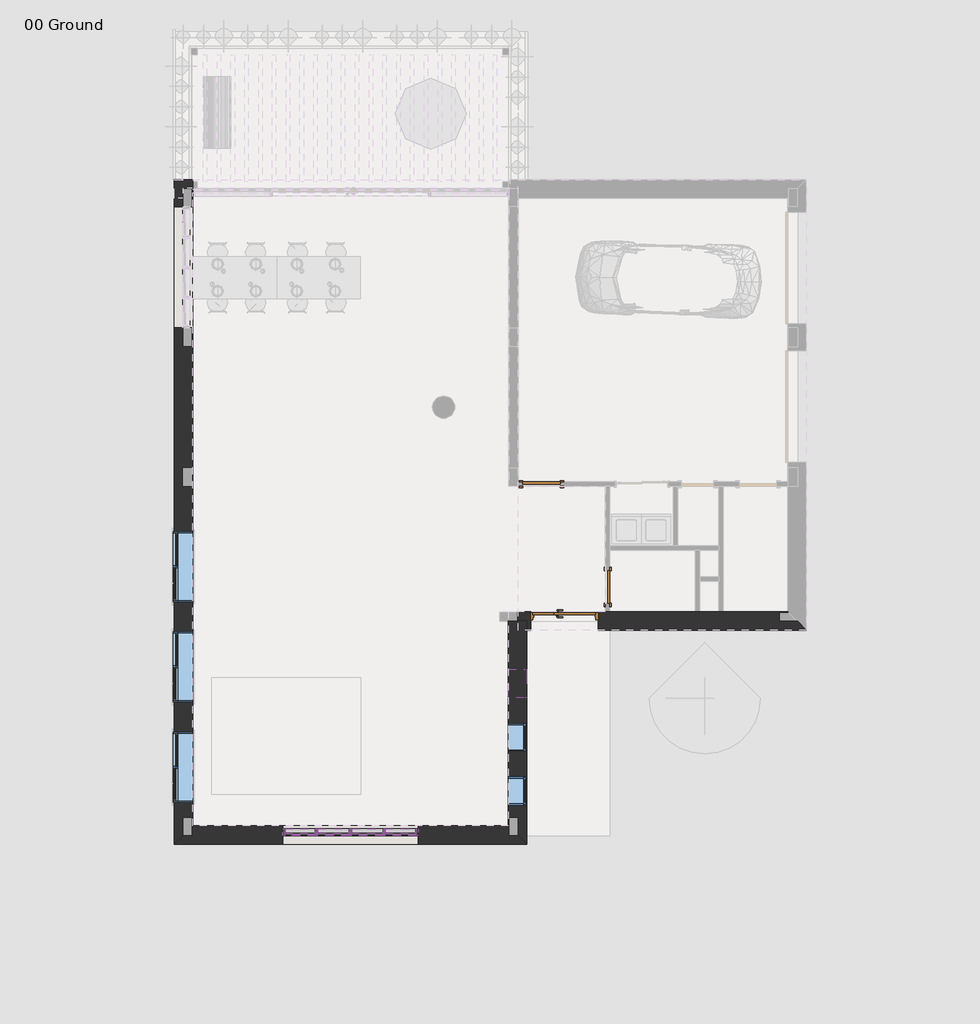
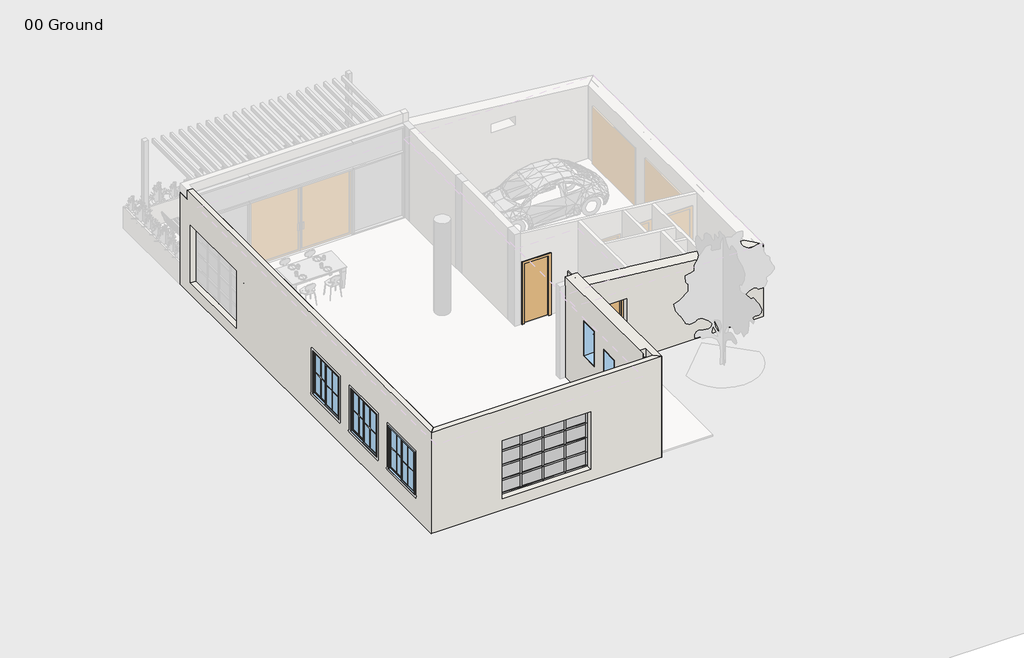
# One storey, part 1 of 4: 40 members, 16 plates, 6 windows, 4 walls, 3 doors.
"""IFC4 building model written with IfcOpenShell, lengths in millimetres."""

from ifc_helpers import new_model, si_unit, origin, place, context, project, spatial, faceted_brep, transform, mapped, element, save
from components import m_door_passage_uneven_flush_1350_x_2100mm_8cd78c95, m_single_flush_0700_x_2100mm_23326b45, m_single_flush_0800_x_2100mm_e1c1bfab, rectangular_mullion_50_x_150mm_fef40266, rectangular_mullion_50_x_150mm_4130c5bf, rectangular_mullion_50_x_150mm_a9044063, rectangular_mullion_50_x_150mm_1348d4e1, rectangular_mullion_50_x_150mm_0a8c3443, rectangular_mullion_50_x_150mm_b3666dbd, rectangular_mullion_50_x_150mm_567eccab, rectangular_mullion_50_x_150mm_22f77a7a, system_panel_glazed_d9146cf5, system_panel_glazed_aea024ea, system_panel_glazed_61722dae, system_panel_glazed_96a5b588, m_fixed_0610_x_1220mm_41f4d490, m_window_sliding_double_1500_x_1500mm_8cf3a065

model = new_model("IFC4")

# Units and contexts
model_context = context("Model", 3, world=origin())
ifc_project = project(units=[si_unit("LENGTHUNIT", "METRE", prefix="MILLI")], contexts=[model_context])

# Site, building, storey
site = spatial("IfcSite", under=ifc_project)
building = spatial("IfcBuilding", under=site)
storey = spatial("IfcBuildingStorey", under=building, Name="00 Ground", Elevation=0.0)

# Doors
placement = place(None, origin())
m_door_passage_uneven_flush_1350_x_2100mm_shape = m_door_passage_uneven_flush_1350_x_2100mm_8cd78c95(model_context)
element("IfcDoor", 1, ObjectType="M_Door-Passage-Uneven-Flush : 1350 x 2100mm", at=placement, inside=storey, context=model_context, shape_type="MappedRepresentation", body=[
    mapped(m_door_passage_uneven_flush_1350_x_2100mm_shape, transform((-132.5407999, -2955.0601648, 0.0), x_axis=(-1.0, 0.0, 0.0), y_axis=(0.0, -1.0, 0.0), z_axis=(0.0, 0.0, 1.0))),
])
m_single_flush_0700_x_2100mm_shape = m_single_flush_0700_x_2100mm_23326b45(model_context)
element("IfcDoor", 2, ObjectType="M_Single-Flush : 0700 x 2100mm", at=placement, inside=storey, context=model_context, shape_type="MappedRepresentation", body=[
    mapped(m_single_flush_0700_x_2100mm_shape, transform((796.9592001, -2219.7101648, 0.0), x_axis=(0.0, -1.0, 0.0), y_axis=(1.0, 0.0, 0.0), z_axis=(0.0, 0.0, 1.0))),
])
m_single_flush_0800_x_2100mm_shape = m_single_flush_0800_x_2100mm_e1c1bfab(model_context)
element("IfcDoor", 3, ObjectType="M_Single-Flush : 0800 x 2100mm", at=placement, inside=storey, context=model_context, shape_type="MappedRepresentation", body=[
    mapped(m_single_flush_0800_x_2100mm_shape, transform((-622.5407999, -12.7101648, 0.0), x_axis=(-1.0, 0.0, 0.0), y_axis=(0.0, -1.0, 0.0), z_axis=(0.0, 0.0, 1.0))),
])

# Members
rectangular_mullion_50_x_150mm_shape = rectangular_mullion_50_x_150mm_fef40266(model_context)
element("IfcMember", 4, ObjectType="Rectangular Mullion : 50 x 150mm", at=placement, inside=storey, context=model_context, shape_type="MappedRepresentation", body=[
    mapped(rectangular_mullion_50_x_150mm_shape, transform((-3272.5407999, -7487.7101648, 2400.0), x_axis=(0.0, 0.0, 1.0), y_axis=(0.0, -1.0, 0.0), z_axis=(1.0, 0.0, 0.0))),
])
element("IfcMember", 5, ObjectType="Rectangular Mullion : 50 x 150mm", at=placement, inside=storey, context=model_context, shape_type="MappedRepresentation", body=[
    mapped(rectangular_mullion_50_x_150mm_shape, transform((-5447.5407998, -7487.7101648, 2400.0), x_axis=(0.0, 0.0, 1.0), y_axis=(0.0, -1.0, 0.0), z_axis=(1.0, 0.0, 0.0))),
])
rectangular_mullion_50_x_150mm_2_shape = rectangular_mullion_50_x_150mm_4130c5bf(model_context)
element("IfcMember", 6, ObjectType="Rectangular Mullion : 50 x 150mm", at=placement, inside=storey, context=model_context, shape_type="MappedRepresentation", body=[
    mapped(rectangular_mullion_50_x_150mm_2_shape, transform((-4722.5407999, -7487.7101648, 2400.0), x_axis=(0.0, 0.0, 1.0), y_axis=(0.0, -1.0, 0.0), z_axis=(1.0, 0.0, 0.0))),
])
element("IfcMember", 7, ObjectType="Rectangular Mullion : 50 x 150mm", at=placement, inside=storey, context=model_context, shape_type="MappedRepresentation", body=[
    mapped(rectangular_mullion_50_x_150mm_2_shape, transform((-3997.5408001, -7487.7101648, 2400.0), x_axis=(0.0, 0.0, 1.0), y_axis=(0.0, -1.0, 0.0), z_axis=(1.0, 0.0, 0.0))),
])
element("IfcMember", 8, ObjectType="Rectangular Mullion : 50 x 150mm", at=placement, inside=storey, context=model_context, shape_type="MappedRepresentation", body=[
    mapped(rectangular_mullion_50_x_150mm_shape, transform((-6172.5407999, -7487.7101648, 400.0), x_axis=(0.0, 0.0, -1.0), y_axis=(0.0, -1.0, 0.0), z_axis=(-1.0, 0.0, 0.0))),
])
element("IfcMember", 9, ObjectType="Rectangular Mullion : 50 x 150mm", at=placement, inside=storey, context=model_context, shape_type="MappedRepresentation", body=[
    mapped(rectangular_mullion_50_x_150mm_2_shape, transform((-5447.5407998, -7487.7101648, 400.0), x_axis=(0.0, 0.0, -1.0), y_axis=(0.0, -1.0, 0.0), z_axis=(-1.0, 0.0, 0.0))),
])
element("IfcMember", 10, ObjectType="Rectangular Mullion : 50 x 150mm", at=placement, inside=storey, context=model_context, shape_type="MappedRepresentation", body=[
    mapped(rectangular_mullion_50_x_150mm_2_shape, transform((-4722.5407999, -7487.7101648, 400.0), x_axis=(0.0, 0.0, -1.0), y_axis=(0.0, -1.0, 0.0), z_axis=(-1.0, 0.0, 0.0))),
])
element("IfcMember", 11, ObjectType="Rectangular Mullion : 50 x 150mm", at=placement, inside=storey, context=model_context, shape_type="MappedRepresentation", body=[
    mapped(rectangular_mullion_50_x_150mm_shape, transform((-3997.5408001, -7487.7101648, 400.0), x_axis=(0.0, 0.0, -1.0), y_axis=(0.0, -1.0, 0.0), z_axis=(-1.0, 0.0, 0.0))),
])
rectangular_mullion_50_x_150mm_3_shape = rectangular_mullion_50_x_150mm_a9044063(model_context)
element("IfcMember", 12, ObjectType="Rectangular Mullion : 50 x 150mm", at=placement, inside=storey, context=model_context, shape_type="MappedRepresentation", body=[
    mapped(rectangular_mullion_50_x_150mm_3_shape, transform((-3322.5407999, -7487.7101648, 900.0), x_axis=(0.0, 0.0, 1.0), y_axis=(0.0, -1.0, 0.0), z_axis=(1.0, 0.0, 0.0))),
])
element("IfcMember", 13, ObjectType="Rectangular Mullion : 50 x 150mm", at=placement, inside=storey, context=model_context, shape_type="MappedRepresentation", body=[
    mapped(rectangular_mullion_50_x_150mm_3_shape, transform((-3322.5407999, -7487.7101648, 1400.0), x_axis=(0.0, 0.0, 1.0), y_axis=(0.0, -1.0, 0.0), z_axis=(1.0, 0.0, 0.0))),
])
element("IfcMember", 14, ObjectType="Rectangular Mullion : 50 x 150mm", at=placement, inside=storey, context=model_context, shape_type="MappedRepresentation", body=[
    mapped(rectangular_mullion_50_x_150mm_3_shape, transform((-3322.5407999, -7487.7101648, 1900.0), x_axis=(0.0, 0.0, 1.0), y_axis=(0.0, -1.0, 0.0), z_axis=(1.0, 0.0, 0.0))),
])
element("IfcMember", 15, ObjectType="Rectangular Mullion : 50 x 150mm", at=placement, inside=storey, context=model_context, shape_type="MappedRepresentation", body=[
    mapped(rectangular_mullion_50_x_150mm_3_shape, transform((-5472.5407998, -7487.7101648, 900.0), x_axis=(0.0, 0.0, 1.0), y_axis=(0.0, -1.0, 0.0), z_axis=(1.0, 0.0, 0.0))),
])
element("IfcMember", 16, ObjectType="Rectangular Mullion : 50 x 150mm", at=placement, inside=storey, context=model_context, shape_type="MappedRepresentation", body=[
    mapped(rectangular_mullion_50_x_150mm_3_shape, transform((-5472.5407998, -7487.7101648, 1400.0), x_axis=(0.0, 0.0, 1.0), y_axis=(0.0, -1.0, 0.0), z_axis=(1.0, 0.0, 0.0))),
])
element("IfcMember", 17, ObjectType="Rectangular Mullion : 50 x 150mm", at=placement, inside=storey, context=model_context, shape_type="MappedRepresentation", body=[
    mapped(rectangular_mullion_50_x_150mm_3_shape, transform((-5472.5407998, -7487.7101648, 1900.0), x_axis=(0.0, 0.0, 1.0), y_axis=(0.0, -1.0, 0.0), z_axis=(1.0, 0.0, 0.0))),
])
rectangular_mullion_50_x_150mm_4_shape = rectangular_mullion_50_x_150mm_1348d4e1(model_context)
element("IfcMember", 18, ObjectType="Rectangular Mullion : 50 x 150mm", at=placement, inside=storey, context=model_context, shape_type="MappedRepresentation", body=[
    mapped(rectangular_mullion_50_x_150mm_4_shape, transform((-4747.5407999, -7487.7101648, 900.0), x_axis=(0.0, 0.0, 1.0), y_axis=(0.0, -1.0, 0.0), z_axis=(1.0, 0.0, 0.0))),
])
element("IfcMember", 19, ObjectType="Rectangular Mullion : 50 x 150mm", at=placement, inside=storey, context=model_context, shape_type="MappedRepresentation", body=[
    mapped(rectangular_mullion_50_x_150mm_4_shape, transform((-4022.5408001, -7487.7101648, 900.0), x_axis=(0.0, 0.0, 1.0), y_axis=(0.0, -1.0, 0.0), z_axis=(1.0, 0.0, 0.0))),
])
element("IfcMember", 20, ObjectType="Rectangular Mullion : 50 x 150mm", at=placement, inside=storey, context=model_context, shape_type="MappedRepresentation", body=[
    mapped(rectangular_mullion_50_x_150mm_4_shape, transform((-4747.5407999, -7487.7101648, 1400.0), x_axis=(0.0, 0.0, 1.0), y_axis=(0.0, -1.0, 0.0), z_axis=(1.0, 0.0, 0.0))),
])
element("IfcMember", 21, ObjectType="Rectangular Mullion : 50 x 150mm", at=placement, inside=storey, context=model_context, shape_type="MappedRepresentation", body=[
    mapped(rectangular_mullion_50_x_150mm_4_shape, transform((-4022.5408001, -7487.7101648, 1400.0), x_axis=(0.0, 0.0, 1.0), y_axis=(0.0, -1.0, 0.0), z_axis=(1.0, 0.0, 0.0))),
])
element("IfcMember", 22, ObjectType="Rectangular Mullion : 50 x 150mm", at=placement, inside=storey, context=model_context, shape_type="MappedRepresentation", body=[
    mapped(rectangular_mullion_50_x_150mm_4_shape, transform((-4747.5407999, -7487.7101648, 1900.0), x_axis=(0.0, 0.0, 1.0), y_axis=(0.0, -1.0, 0.0), z_axis=(1.0, 0.0, 0.0))),
])
element("IfcMember", 23, ObjectType="Rectangular Mullion : 50 x 150mm", at=placement, inside=storey, context=model_context, shape_type="MappedRepresentation", body=[
    mapped(rectangular_mullion_50_x_150mm_4_shape, transform((-4022.5408001, -7487.7101648, 1900.0), x_axis=(0.0, 0.0, 1.0), y_axis=(0.0, -1.0, 0.0), z_axis=(1.0, 0.0, 0.0))),
])
rectangular_mullion_50_x_150mm_5_shape = rectangular_mullion_50_x_150mm_0a8c3443(model_context)
element("IfcMember", 24, ObjectType="Rectangular Mullion : 50 x 150mm", at=placement, inside=storey, context=model_context, shape_type="MappedRepresentation", body=[
    mapped(rectangular_mullion_50_x_150mm_5_shape, transform((-3272.5407999, -7487.7101648, 450.0), x_axis=(1.0, 0.0, 0.0), y_axis=(0.0, -1.0, 0.0), z_axis=(0.0, 0.0, -1.0))),
])
rectangular_mullion_50_x_150mm_6_shape = rectangular_mullion_50_x_150mm_b3666dbd(model_context)
element("IfcMember", 25, ObjectType="Rectangular Mullion : 50 x 150mm", at=placement, inside=storey, context=model_context, shape_type="MappedRepresentation", body=[
    mapped(rectangular_mullion_50_x_150mm_6_shape, transform((-3272.5407999, -7487.7101648, 900.0), x_axis=(1.0, 0.0, 0.0), y_axis=(0.0, -1.0, 0.0), z_axis=(0.0, 0.0, -1.0))),
])
element("IfcMember", 26, ObjectType="Rectangular Mullion : 50 x 150mm", at=placement, inside=storey, context=model_context, shape_type="MappedRepresentation", body=[
    mapped(rectangular_mullion_50_x_150mm_6_shape, transform((-3272.5407999, -7487.7101648, 1400.0), x_axis=(1.0, 0.0, 0.0), y_axis=(0.0, -1.0, 0.0), z_axis=(0.0, 0.0, -1.0))),
])
element("IfcMember", 27, ObjectType="Rectangular Mullion : 50 x 150mm", at=placement, inside=storey, context=model_context, shape_type="MappedRepresentation", body=[
    mapped(rectangular_mullion_50_x_150mm_5_shape, transform((-3272.5407999, -7487.7101648, 1900.0), x_axis=(1.0, 0.0, 0.0), y_axis=(0.0, -1.0, 0.0), z_axis=(0.0, 0.0, -1.0))),
])
element("IfcMember", 28, ObjectType="Rectangular Mullion : 50 x 150mm", at=placement, inside=storey, context=model_context, shape_type="MappedRepresentation", body=[
    mapped(rectangular_mullion_50_x_150mm_5_shape, transform((-6172.5407999, -7487.7101648, 2350.0), x_axis=(-1.0, 0.0, 0.0), y_axis=(0.0, -1.0, 0.0), z_axis=(0.0, 0.0, 1.0))),
])
element("IfcMember", 29, ObjectType="Rectangular Mullion : 50 x 150mm", at=placement, inside=storey, context=model_context, shape_type="MappedRepresentation", body=[
    mapped(rectangular_mullion_50_x_150mm_5_shape, transform((-6172.5407999, -7487.7101648, 900.0), x_axis=(-1.0, 0.0, 0.0), y_axis=(0.0, -1.0, 0.0), z_axis=(0.0, 0.0, 1.0))),
])
element("IfcMember", 30, ObjectType="Rectangular Mullion : 50 x 150mm", at=placement, inside=storey, context=model_context, shape_type="MappedRepresentation", body=[
    mapped(rectangular_mullion_50_x_150mm_6_shape, transform((-6172.5407999, -7487.7101648, 1400.0), x_axis=(-1.0, 0.0, 0.0), y_axis=(0.0, -1.0, 0.0), z_axis=(0.0, 0.0, 1.0))),
])
element("IfcMember", 31, ObjectType="Rectangular Mullion : 50 x 150mm", at=placement, inside=storey, context=model_context, shape_type="MappedRepresentation", body=[
    mapped(rectangular_mullion_50_x_150mm_6_shape, transform((-6172.5407999, -7487.7101648, 1900.0), x_axis=(-1.0, 0.0, 0.0), y_axis=(0.0, -1.0, 0.0), z_axis=(0.0, 0.0, 1.0))),
])
rectangular_mullion_50_x_150mm_7_shape = rectangular_mullion_50_x_150mm_567eccab(model_context)
element("IfcMember", 32, ObjectType="Rectangular Mullion : 50 x 150mm", at=placement, inside=storey, context=model_context, shape_type="MappedRepresentation", body=[
    mapped(rectangular_mullion_50_x_150mm_7_shape, transform((-5447.5407998, -7487.7101648, 450.0), x_axis=(1.0, 0.0, 0.0), y_axis=(0.0, -1.0, 0.0), z_axis=(0.0, 0.0, -1.0))),
])
element("IfcMember", 33, ObjectType="Rectangular Mullion : 50 x 150mm", at=placement, inside=storey, context=model_context, shape_type="MappedRepresentation", body=[
    mapped(rectangular_mullion_50_x_150mm_7_shape, transform((-4722.5407999, -7487.7101648, 450.0), x_axis=(1.0, 0.0, 0.0), y_axis=(0.0, -1.0, 0.0), z_axis=(0.0, 0.0, -1.0))),
])
element("IfcMember", 34, ObjectType="Rectangular Mullion : 50 x 150mm", at=placement, inside=storey, context=model_context, shape_type="MappedRepresentation", body=[
    mapped(rectangular_mullion_50_x_150mm_7_shape, transform((-3997.5408001, -7487.7101648, 450.0), x_axis=(1.0, 0.0, 0.0), y_axis=(0.0, -1.0, 0.0), z_axis=(0.0, 0.0, -1.0))),
])
rectangular_mullion_50_x_150mm_8_shape = rectangular_mullion_50_x_150mm_22f77a7a(model_context)
element("IfcMember", 35, ObjectType="Rectangular Mullion : 50 x 150mm", at=placement, inside=storey, context=model_context, shape_type="MappedRepresentation", body=[
    mapped(rectangular_mullion_50_x_150mm_8_shape, transform((-5447.5407998, -7487.7101648, 900.0), x_axis=(1.0, 0.0, 0.0), y_axis=(0.0, -1.0, 0.0), z_axis=(0.0, 0.0, -1.0))),
])
element("IfcMember", 36, ObjectType="Rectangular Mullion : 50 x 150mm", at=placement, inside=storey, context=model_context, shape_type="MappedRepresentation", body=[
    mapped(rectangular_mullion_50_x_150mm_8_shape, transform((-4722.5407999, -7487.7101648, 900.0), x_axis=(1.0, 0.0, 0.0), y_axis=(0.0, -1.0, 0.0), z_axis=(0.0, 0.0, -1.0))),
])
element("IfcMember", 37, ObjectType="Rectangular Mullion : 50 x 150mm", at=placement, inside=storey, context=model_context, shape_type="MappedRepresentation", body=[
    mapped(rectangular_mullion_50_x_150mm_8_shape, transform((-3997.5408001, -7487.7101648, 900.0), x_axis=(1.0, 0.0, 0.0), y_axis=(0.0, -1.0, 0.0), z_axis=(0.0, 0.0, -1.0))),
])
element("IfcMember", 38, ObjectType="Rectangular Mullion : 50 x 150mm", at=placement, inside=storey, context=model_context, shape_type="MappedRepresentation", body=[
    mapped(rectangular_mullion_50_x_150mm_8_shape, transform((-5447.5407998, -7487.7101648, 1400.0), x_axis=(1.0, 0.0, 0.0), y_axis=(0.0, -1.0, 0.0), z_axis=(0.0, 0.0, -1.0))),
])
element("IfcMember", 39, ObjectType="Rectangular Mullion : 50 x 150mm", at=placement, inside=storey, context=model_context, shape_type="MappedRepresentation", body=[
    mapped(rectangular_mullion_50_x_150mm_8_shape, transform((-4722.5407999, -7487.7101648, 1400.0), x_axis=(1.0, 0.0, 0.0), y_axis=(0.0, -1.0, 0.0), z_axis=(0.0, 0.0, -1.0))),
])
element("IfcMember", 40, ObjectType="Rectangular Mullion : 50 x 150mm", at=placement, inside=storey, context=model_context, shape_type="MappedRepresentation", body=[
    mapped(rectangular_mullion_50_x_150mm_8_shape, transform((-3997.5408001, -7487.7101648, 1400.0), x_axis=(1.0, 0.0, 0.0), y_axis=(0.0, -1.0, 0.0), z_axis=(0.0, 0.0, -1.0))),
])
element("IfcMember", 41, ObjectType="Rectangular Mullion : 50 x 150mm", at=placement, inside=storey, context=model_context, shape_type="MappedRepresentation", body=[
    mapped(rectangular_mullion_50_x_150mm_7_shape, transform((-5447.5407998, -7487.7101648, 1900.0), x_axis=(1.0, 0.0, 0.0), y_axis=(0.0, -1.0, 0.0), z_axis=(0.0, 0.0, -1.0))),
])
element("IfcMember", 42, ObjectType="Rectangular Mullion : 50 x 150mm", at=placement, inside=storey, context=model_context, shape_type="MappedRepresentation", body=[
    mapped(rectangular_mullion_50_x_150mm_7_shape, transform((-4722.5407999, -7487.7101648, 1900.0), x_axis=(1.0, 0.0, 0.0), y_axis=(0.0, -1.0, 0.0), z_axis=(0.0, 0.0, -1.0))),
])
element("IfcMember", 43, ObjectType="Rectangular Mullion : 50 x 150mm", at=placement, inside=storey, context=model_context, shape_type="MappedRepresentation", body=[
    mapped(rectangular_mullion_50_x_150mm_7_shape, transform((-3997.5408001, -7487.7101648, 1900.0), x_axis=(1.0, 0.0, 0.0), y_axis=(0.0, -1.0, 0.0), z_axis=(0.0, 0.0, -1.0))),
])

# Plates
system_panel_glazed_shape = system_panel_glazed_d9146cf5(model_context)
element("IfcPlate", 44, ObjectType="System Panel : Glazed", at=placement, inside=storey, context=model_context, shape_type="MappedRepresentation", body=[
    mapped(system_panel_glazed_shape, transform((-5797.5407999, -7487.7101648, 450.0), x_axis=(1.0, 0.0, 0.0), y_axis=(0.0, 1.0, 0.0), z_axis=(0.0, 0.0, 1.0))),
])
element("IfcPlate", 45, ObjectType="System Panel : Glazed", at=placement, inside=storey, context=model_context, shape_type="MappedRepresentation", body=[
    mapped(system_panel_glazed_shape, transform((-3647.5408, -7487.7101648, 450.0), x_axis=(1.0, 0.0, 0.0), y_axis=(0.0, 1.0, 0.0), z_axis=(0.0, 0.0, 1.0))),
])
element("IfcPlate", 46, ObjectType="System Panel : Glazed", at=placement, inside=storey, context=model_context, shape_type="MappedRepresentation", body=[
    mapped(system_panel_glazed_shape, transform((-5797.5407999, -7487.7101648, 1925.0), x_axis=(1.0, 0.0, 0.0), y_axis=(0.0, 1.0, 0.0), z_axis=(0.0, 0.0, 1.0))),
])
element("IfcPlate", 47, ObjectType="System Panel : Glazed", at=placement, inside=storey, context=model_context, shape_type="MappedRepresentation", body=[
    mapped(system_panel_glazed_shape, transform((-3647.5408, -7487.7101648, 1925.0), x_axis=(1.0, 0.0, 0.0), y_axis=(0.0, 1.0, 0.0), z_axis=(0.0, 0.0, 1.0))),
])
system_panel_glazed_2_shape = system_panel_glazed_aea024ea(model_context)
element("IfcPlate", 48, ObjectType="System Panel : Glazed", at=placement, inside=storey, context=model_context, shape_type="MappedRepresentation", body=[
    mapped(system_panel_glazed_2_shape, transform((-5085.0407999, -7487.7101648, 450.0), x_axis=(1.0, 0.0, 0.0), y_axis=(0.0, 1.0, 0.0), z_axis=(0.0, 0.0, 1.0))),
])
element("IfcPlate", 49, ObjectType="System Panel : Glazed", at=placement, inside=storey, context=model_context, shape_type="MappedRepresentation", body=[
    mapped(system_panel_glazed_2_shape, transform((-4360.0408, -7487.7101648, 450.0), x_axis=(1.0, 0.0, 0.0), y_axis=(0.0, 1.0, 0.0), z_axis=(0.0, 0.0, 1.0))),
])
element("IfcPlate", 50, ObjectType="System Panel : Glazed", at=placement, inside=storey, context=model_context, shape_type="MappedRepresentation", body=[
    mapped(system_panel_glazed_2_shape, transform((-5085.0407999, -7487.7101648, 1925.0), x_axis=(1.0, 0.0, 0.0), y_axis=(0.0, 1.0, 0.0), z_axis=(0.0, 0.0, 1.0))),
])
element("IfcPlate", 51, ObjectType="System Panel : Glazed", at=placement, inside=storey, context=model_context, shape_type="MappedRepresentation", body=[
    mapped(system_panel_glazed_2_shape, transform((-4360.0408, -7487.7101648, 1925.0), x_axis=(1.0, 0.0, 0.0), y_axis=(0.0, 1.0, 0.0), z_axis=(0.0, 0.0, 1.0))),
])
system_panel_glazed_3_shape = system_panel_glazed_61722dae(model_context)
element("IfcPlate", 52, ObjectType="System Panel : Glazed", at=placement, inside=storey, context=model_context, shape_type="MappedRepresentation", body=[
    mapped(system_panel_glazed_3_shape, transform((-5797.5407999, -7487.7101648, 925.0), x_axis=(1.0, 0.0, 0.0), y_axis=(0.0, 1.0, 0.0), z_axis=(0.0, 0.0, 1.0))),
])
element("IfcPlate", 53, ObjectType="System Panel : Glazed", at=placement, inside=storey, context=model_context, shape_type="MappedRepresentation", body=[
    mapped(system_panel_glazed_3_shape, transform((-3647.5408, -7487.7101648, 925.0), x_axis=(1.0, 0.0, 0.0), y_axis=(0.0, 1.0, 0.0), z_axis=(0.0, 0.0, 1.0))),
])
element("IfcPlate", 54, ObjectType="System Panel : Glazed", at=placement, inside=storey, context=model_context, shape_type="MappedRepresentation", body=[
    mapped(system_panel_glazed_3_shape, transform((-5797.5407999, -7487.7101648, 1425.0), x_axis=(1.0, 0.0, 0.0), y_axis=(0.0, 1.0, 0.0), z_axis=(0.0, 0.0, 1.0))),
])
element("IfcPlate", 55, ObjectType="System Panel : Glazed", at=placement, inside=storey, context=model_context, shape_type="MappedRepresentation", body=[
    mapped(system_panel_glazed_3_shape, transform((-3647.5408, -7487.7101648, 1425.0), x_axis=(1.0, 0.0, 0.0), y_axis=(0.0, 1.0, 0.0), z_axis=(0.0, 0.0, 1.0))),
])
system_panel_glazed_4_shape = system_panel_glazed_96a5b588(model_context)
element("IfcPlate", 56, ObjectType="System Panel : Glazed", at=placement, inside=storey, context=model_context, shape_type="MappedRepresentation", body=[
    mapped(system_panel_glazed_4_shape, transform((-5085.0407999, -7487.7101648, 925.0), x_axis=(1.0, 0.0, 0.0), y_axis=(0.0, 1.0, 0.0), z_axis=(0.0, 0.0, 1.0))),
])
element("IfcPlate", 57, ObjectType="System Panel : Glazed", at=placement, inside=storey, context=model_context, shape_type="MappedRepresentation", body=[
    mapped(system_panel_glazed_4_shape, transform((-4360.0408, -7487.7101648, 925.0), x_axis=(1.0, 0.0, 0.0), y_axis=(0.0, 1.0, 0.0), z_axis=(0.0, 0.0, 1.0))),
])
element("IfcPlate", 58, ObjectType="System Panel : Glazed", at=placement, inside=storey, context=model_context, shape_type="MappedRepresentation", body=[
    mapped(system_panel_glazed_4_shape, transform((-5085.0407999, -7487.7101648, 1425.0), x_axis=(1.0, 0.0, 0.0), y_axis=(0.0, 1.0, 0.0), z_axis=(0.0, 0.0, 1.0))),
])
element("IfcPlate", 59, ObjectType="System Panel : Glazed", at=placement, inside=storey, context=model_context, shape_type="MappedRepresentation", body=[
    mapped(system_panel_glazed_4_shape, transform((-4360.0408, -7487.7101648, 1425.0), x_axis=(1.0, 0.0, 0.0), y_axis=(0.0, 1.0, 0.0), z_axis=(0.0, 0.0, 1.0))),
])

# Walls
element("IfcWall", 60, ObjectType="Exterior - Brick on CMU", at=placement, inside=storey, context=model_context, shape_type="Brep", body=[
    faceted_brep([(-937.5407999, -7747.7101648, 0.0), (-937.5407999, -2948.7101648, 0.0), (-937.5407999, -2948.7101648, 3500.0), (-937.5407999, -7747.7101648, 3500.0), (-937.5407999, -3992.7101648, 2600.0), (-937.5407999, -3992.7101648, 1380.0), (-937.5407999, -4602.7101648, 1380.0), (-937.5407999, -4602.7101648, 2600.0), (-937.5407999, -5142.7101648, 2300.0), (-937.5407999, -5142.7101648, 1080.0), (-937.5407999, -5752.7101648, 1080.0), (-937.5407999, -5752.7101648, 2300.0), (-937.5407999, -6292.7101648, 2000.0), (-937.5407999, -6292.7101648, 780.0), (-937.5407999, -6902.7101648, 780.0), (-937.5407999, -6902.7101648, 2000.0), (-1335.5407999, -7349.7101648, 0.0), (-1335.5407999, -7349.7101648, 3500.0), (-1335.5407999, -2962.7101648, 3500.0), (-1335.5407999, -2962.7101648, 0.0), (-1335.5407999, -3992.7101648, 1380.0), (-1335.5407999, -3992.7101648, 2600.0), (-1335.5407999, -4602.7101648, 2600.0), (-1335.5407999, -4602.7101648, 1380.0), (-1335.5407999, -5142.7101648, 1080.0), (-1335.5407999, -5142.7101648, 2300.0), (-1335.5407999, -5752.7101648, 2300.0), (-1335.5407999, -5752.7101648, 1080.0), (-1335.5407999, -6292.7101648, 780.0), (-1335.5407999, -6292.7101648, 2000.0), (-1335.5407999, -6902.7101648, 2000.0), (-1335.5407999, -6902.7101648, 780.0), (-1122.5407999, -7562.7101648, 0.0), (-1122.5407999, -7162.7101648, 0.0), (-1322.5407999, -7162.7101648, 0.0), (-1322.5407999, -7362.7101648, 0.0), (-1122.5407999, -2962.7101648, 0.0), (-1122.5407999, -2948.7101648, 0.0), (-1122.5407999, -2948.7101648, 3500.0), (-1122.5407999, -2962.7101648, 3500.0), (-1322.5407999, -7362.7101648, 3500.0), (-1322.5407999, -7162.7101648, 3500.0), (-1122.5407999, -7162.7101648, 3500.0), (-1122.5407999, -7562.7101648, 3500.0), (-1322.5407999, -7362.7101648, 3200.0), (-1122.5407999, -2962.7101648, 3200.0), (-1122.5407999, -7162.7101648, 3200.0), (-1322.5407999, -7162.7101648, 3200.0)], [[[0, 1, 2, 3], [4, 5, 6, 7], [8, 9, 10, 11], [12, 13, 14, 15]], [[16, 17, 18, 19], [20, 21, 22, 23], [24, 25, 26, 27], [28, 29, 30, 31]], [[1, 0, 32, 33, 34, 35, 16, 19, 36, 37]], [[2, 1, 37, 38]], [[3, 2, 38, 39, 18, 17, 40, 41, 42, 43]], [[0, 3, 43, 32]], [[17, 16, 35, 44, 40]], [[20, 5, 4, 21]], [[6, 23, 22, 7]], [[5, 20, 23, 6]], [[7, 22, 21, 4]], [[24, 9, 8, 25]], [[25, 8, 11, 26]], [[26, 11, 10, 27]], [[9, 24, 27, 10]], [[28, 13, 12, 29]], [[29, 12, 15, 30]], [[30, 15, 14, 31]], [[13, 28, 31, 14]], [[36, 45, 39, 38, 37]], [[39, 45, 36, 19, 18]], [[42, 46, 33, 32, 43]], [[34, 47, 41, 40, 44, 35]], [[33, 46, 42, 41, 47, 34]]]),
])
element("IfcWall", 61, ObjectType="Exterior - Brick on CMU", at=placement, inside=storey, context=model_context, shape_type="Brep", body=[
    faceted_brep([(-1136.5407999, -3147.7101648, 3500.0), (-1136.5407999, -3147.7101648, 0.0), (-857.5407999, -3147.7101648, 0.0), (-857.5407999, -3147.7101648, 2200.0), (592.4592001, -3147.7101648, 2200.0), (592.4592001, -3147.7101648, 0.0), (5062.4592001, -3147.7101648, 0.0), (5062.4592001, -3147.7101648, 2500.0), (-1122.5407999, -3147.7101648, 3160.0), (-1122.5407999, -3147.7101648, 3500.0), (-1136.5407999, -2749.7101648, 0.0), (-1136.5407999, -2749.7101648, 3500.0), (-1122.5407999, -2749.7101648, 3500.0), (-1122.5407999, -2749.7101648, 3160.0), (746.9592001, -2749.7101648, 2960.5060631), (846.9592001, -2749.7101648, 2949.8350849), (2677.4592001, -2749.7101648, 2754.5028294), (2777.4592001, -2749.7101648, 2743.8318513), (3177.4592001, -2749.7101648, 2701.1479386), (3277.4592001, -2749.7101648, 2690.4769604), (4664.4592001, -2749.7101648, 2542.4704931), (4664.4592001, -2749.7101648, 0.0), (3277.4592001, -2749.7101648, 0.0), (3177.4592001, -2749.7101648, 0.0), (2777.4592001, -2749.7101648, 0.0), (2677.4592001, -2749.7101648, 0.0), (846.9592001, -2749.7101648, 0.0), (746.9592001, -2749.7101648, 0.0), (592.4592001, -2749.7101648, 0.0), (592.4592001, -2749.7101648, 2200.0), (-857.5407999, -2749.7101648, 2200.0), (-857.5407999, -2749.7101648, 0.0), (4677.4592001, -2762.7101648, 0.0), (4477.4592001, -2762.7101648, 0.0), (4477.4592001, -2962.7101648, 0.0), (4877.4592001, -2962.7101648, 0.0), (4877.4592001, -2962.7101648, 2519.7413096), (4677.4592001, -2762.7101648, 2519.7413096), (4477.4592001, -2962.7101648, 2519.7413096), (4477.4592001, -2762.7101648, 2519.7413096)], [[[0, 1, 2, 3, 4, 5, 6, 7, 8, 9]], [[10, 11, 12, 13, 14, 15, 16, 17, 18, 19, 20, 21, 22, 23, 24, 25, 26, 27, 28, 29, 30, 31]], [[1, 10, 31, 2]], [[6, 5, 28, 27, 26, 25, 24, 23, 22, 21, 32, 33, 34, 35]], [[1, 0, 11, 10]], [[7, 6, 35, 36]], [[21, 20, 36, 37, 32]], [[38, 36, 35, 34]], [[33, 39, 38, 34]], [[39, 33, 32, 37]], [[36, 38, 39, 37]], [[30, 3, 2, 31]], [[3, 30, 29, 4]], [[4, 29, 28, 5]], [[11, 0, 9, 12]], [[12, 9, 8, 13]], [[8, 7, 36, 20, 19, 18, 17, 16, 15, 14, 13]]]),
])
element("IfcWall", 62, ObjectType="Exterior - Brick on CMU", at=placement, inside=storey, context=model_context, shape_type="Brep", body=[
    faceted_brep([(-1335.5407999, -7349.7101648, 0.0), (-8109.5407999, -7349.7101648, 0.0), (-8109.5407999, -7349.7101648, 3200.0), (-1335.5407999, -7349.7101648, 3200.0), (-6172.5407999, -7349.7101648, 2400.0), (-6172.5407999, -7349.7101648, 400.0), (-3272.5407999, -7349.7101648, 400.0), (-3272.5407999, -7349.7101648, 2400.0), (-8507.5407999, -7747.7101648, 0.0), (-937.5407999, -7747.7101648, 0.0), (-937.5407999, -7747.7101648, 3500.0), (-8507.5407999, -7747.7101648, 3500.0), (-6172.5407999, -7747.7101648, 400.0), (-6172.5407999, -7747.7101648, 2400.0), (-3272.5407999, -7747.7101648, 2400.0), (-3272.5407999, -7747.7101648, 400.0), (-1322.5407999, -7362.7101648, 0.0), (-1322.5407999, -7562.7101648, 0.0), (-1122.5407999, -7562.7101648, 0.0), (-8322.5407999, -7562.7101648, 0.0), (-8122.5407999, -7562.7101648, 0.0), (-8122.5407999, -7362.7101648, 0.0), (-1122.5407999, -7562.7101648, 3500.0), (-8322.5407999, -7562.7101648, 3500.0), (-1322.5407999, -7362.7101648, 3200.0), (-8122.5407999, -7362.7101648, 3200.0), (-8122.5407999, -7562.7101648, 3200.0), (-1322.5407999, -7562.7101648, 3200.0)], [[[0, 1, 2, 3], [4, 5, 6, 7]], [[8, 9, 10, 11], [12, 13, 14, 15]], [[1, 0, 16, 17, 18, 9, 8, 19, 20, 21]], [[11, 10, 22, 23]], [[10, 9, 18, 22]], [[16, 0, 3, 24]], [[8, 11, 23, 19]], [[1, 21, 25, 2]], [[4, 13, 12, 5]], [[13, 4, 7, 14]], [[14, 7, 6, 15]], [[5, 12, 15, 6]], [[21, 20, 26, 25]], [[20, 19, 23, 22, 18, 17, 27, 26]], [[17, 16, 24, 27]], [[26, 27, 24, 3, 2, 25]]]),
])
element("IfcWall", 63, ObjectType="Exterior - Brick on CMU", at=placement, inside=storey, context=model_context, shape_type="Brep", body=[
    faceted_brep([(-8109.5407999, -7349.7101648, 0.0), (-8109.5407999, 6522.2898352, 0.0), (-8109.5407999, 6522.2898352, 3200.0), (-8109.5407999, -7349.7101648, 3200.0), (-8109.5407999, 3337.2898352, 400.0), (-8109.5407999, 3337.2898352, 2400.0), (-8109.5407999, 5937.2898352, 2400.0), (-8109.5407999, 5937.2898352, 400.0), (-8109.5407999, -5337.7101648, 2300.0), (-8109.5407999, -5337.7101648, 800.0), (-8109.5407999, -6837.7101648, 800.0), (-8109.5407999, -6837.7101648, 2300.0), (-8109.5407999, -3187.7101648, 2300.0), (-8109.5407999, -3187.7101648, 800.0), (-8109.5407999, -4687.7101648, 800.0), (-8109.5407999, -4687.7101648, 2300.0), (-8109.5407999, -1037.7101648, 2300.0), (-8109.5407999, -1037.7101648, 800.0), (-8109.5407999, -2537.7101648, 800.0), (-8109.5407999, -2537.7101648, 2300.0), (-8507.5407999, 6522.2898352, 0.0), (-8507.5407999, -7747.7101648, 0.0), (-8507.5407999, -7747.7101648, 3500.0), (-8507.5407999, 6124.2898352, 3500.0), (-8507.5407999, 6124.2898352, 3200.0), (-8507.5407999, 6522.2898352, 3200.0), (-8507.5407999, 3337.2898352, 2400.0), (-8507.5407999, 3337.2898352, 400.0), (-8507.5407999, 5937.2898352, 400.0), (-8507.5407999, 5937.2898352, 2400.0), (-8507.5407999, -5337.7101648, 800.0), (-8507.5407999, -5337.7101648, 2300.0), (-8507.5407999, -6837.7101648, 2300.0), (-8507.5407999, -6837.7101648, 800.0), (-8507.5407999, -3187.7101648, 800.0), (-8507.5407999, -3187.7101648, 2300.0), (-8507.5407999, -4687.7101648, 2300.0), (-8507.5407999, -4687.7101648, 800.0), (-8507.5407999, -1037.7101648, 800.0), (-8507.5407999, -1037.7101648, 2300.0), (-8507.5407999, -2537.7101648, 2300.0), (-8507.5407999, -2537.7101648, 800.0), (-8122.5407999, -7362.7101648, 0.0), (-8122.5407999, -7162.7101648, 0.0), (-8322.5407999, -7162.7101648, 0.0), (-8322.5407999, -7562.7101648, 0.0), (-8322.5407999, 5937.2898352, 0.0), (-8122.5407999, 5937.2898352, 0.0), (-8122.5407999, 6337.2898352, 0.0), (-8322.5407999, 6337.2898352, 0.0), (-8122.5407999, 2937.2898352, 0.0), (-8122.5407999, 3337.2898352, 0.0), (-8322.5407999, 3337.2898352, 0.0), (-8322.5407999, 2937.2898352, 0.0), (-8122.5407999, -62.7101648, 0.0), (-8122.5407999, 337.2898352, 0.0), (-8322.5407999, 337.2898352, 0.0), (-8322.5407999, -62.7101648, 0.0), (-8322.5407999, -7562.7101648, 3500.0), (-8122.5407999, -7362.7101648, 3200.0), (-8122.5407999, 3337.2898352, 400.0), (-8122.5407999, 3337.2898352, 2400.0), (-8322.5407999, 3337.2898352, 2400.0), (-8322.5407999, 3337.2898352, 400.0), (-8322.5407999, 5937.2898352, 2400.0), (-8122.5407999, 5937.2898352, 2400.0), (-8122.5407999, 5937.2898352, 400.0), (-8322.5407999, 5937.2898352, 400.0), (-8322.5407999, 5937.2898352, 3200.0), (-8122.5407999, 5937.2898352, 3200.0), (-8322.5407999, 6337.2898352, 3200.0), (-8322.5407999, 6124.2898352, 3200.0), (-8322.5407999, 6124.2898352, 3500.0), (-8322.5407999, -7162.7101648, 3200.0), (-8322.5407999, -62.7101648, 3200.0), (-8322.5407999, 337.2898352, 3200.0), (-8322.5407999, 2937.2898352, 3200.0), (-8322.5407999, 3337.2898352, 3200.0), (-8122.5407999, 6337.2898352, 3200.0), (-8122.5407999, 3337.2898352, 3200.0), (-8122.5407999, 2937.2898352, 3200.0), (-8122.5407999, 337.2898352, 3200.0), (-8122.5407999, -62.7101648, 3200.0), (-8122.5407999, -7162.7101648, 3200.0)], [[[0, 1, 2, 3], [4, 5, 6, 7], [8, 9, 10, 11], [12, 13, 14, 15], [16, 17, 18, 19]], [[20, 21, 22, 23, 24, 25], [26, 27, 28, 29], [30, 31, 32, 33], [34, 35, 36, 37], [38, 39, 40, 41]], [[1, 0, 42, 43, 44, 45, 21, 20], [46, 47, 48, 49], [50, 51, 52, 53], [54, 55, 56, 57]], [[1, 20, 25, 2]], [[22, 21, 45, 58]], [[0, 3, 59, 42]], [[5, 4, 60, 61]], [[27, 26, 62, 63]], [[6, 5, 61, 62, 26, 29, 64, 65]], [[7, 6, 65, 66]], [[29, 28, 67, 64]], [[4, 7, 66, 67, 28, 27, 63, 60]], [[65, 64, 68, 69]], [[46, 67, 66, 47]], [[67, 46, 49, 70, 71, 72, 58, 45, 44, 73, 74, 57, 56, 75, 76, 53, 52, 63, 62, 77, 68, 64]], [[49, 48, 78, 70]], [[72, 71, 24, 23]], [[2, 25, 24, 71, 70, 78, 69, 68, 77, 79, 80, 76, 75, 81, 82, 74, 73, 83, 59, 3]], [[9, 8, 31, 30]], [[10, 9, 30, 33]], [[11, 10, 33, 32]], [[8, 11, 32, 31]], [[13, 12, 35, 34]], [[14, 13, 34, 37]], [[15, 14, 37, 36]], [[12, 15, 36, 35]], [[17, 16, 39, 38]], [[18, 17, 38, 41]], [[19, 18, 41, 40]], [[16, 19, 40, 39]], [[47, 66, 65, 69, 78, 48]], [[60, 51, 50, 80, 79, 61]], [[53, 76, 80, 50]], [[51, 60, 63, 52]], [[77, 62, 61, 79]], [[54, 82, 81, 55]], [[57, 74, 82, 54]], [[75, 56, 55, 81]], [[83, 43, 42, 59]], [[73, 44, 43, 83]], [[22, 58, 72, 23]]]),
])

# Windows
m_fixed_0610_x_1220mm_shape = m_fixed_0610_x_1220mm_41f4d490(model_context)
element("IfcWindow", 64, ObjectType="M_Fixed : 0610 x 1220mm", at=placement, inside=storey, context=model_context, shape_type="MappedRepresentation", body=[
    mapped(m_fixed_0610_x_1220mm_shape, transform((-1149.5407999, -6597.7101648, -135.0), x_axis=(0.0, -1.0, 0.0), y_axis=(1.0, 0.0, 0.0), z_axis=(0.0, 0.0, 1.0))),
])
element("IfcWindow", 65, ObjectType="M_Fixed : 0610 x 1220mm", at=placement, inside=storey, context=model_context, shape_type="MappedRepresentation", body=[
    mapped(m_fixed_0610_x_1220mm_shape, transform((-1149.5407999, -5447.7101648, 165.0), x_axis=(0.0, -1.0, 0.0), y_axis=(1.0, 0.0, 0.0), z_axis=(0.0, 0.0, 1.0))),
])
element("IfcWindow", 66, ObjectType="M_Fixed : 0610 x 1220mm", at=placement, inside=storey, context=model_context, shape_type="MappedRepresentation", body=[
    mapped(m_fixed_0610_x_1220mm_shape, transform((-1149.5407999, -4297.7101648, 465.0), x_axis=(0.0, -1.0, 0.0), y_axis=(1.0, 0.0, 0.0), z_axis=(0.0, 0.0, 1.0))),
])
m_window_sliding_double_1500_x_1500mm_shape = m_window_sliding_double_1500_x_1500mm_8cf3a065(model_context)
element("IfcWindow", 67, ObjectType="M_Window-Sliding-Double : 1500 x 1500mm", at=placement, inside=storey, context=model_context, shape_type="MappedRepresentation", body=[
    mapped(m_window_sliding_double_1500_x_1500mm_shape, transform((-8312.3507999, -6087.7101648, -100.0), x_axis=(0.0, 1.0, 0.0), y_axis=(-1.0, 0.0, 0.0), z_axis=(0.0, 0.0, 1.0))),
])
element("IfcWindow", 68, ObjectType="M_Window-Sliding-Double : 1500 x 1500mm", at=placement, inside=storey, context=model_context, shape_type="MappedRepresentation", body=[
    mapped(m_window_sliding_double_1500_x_1500mm_shape, transform((-8312.3507999, -3937.7101648, -100.0), x_axis=(0.0, 1.0, 0.0), y_axis=(-1.0, 0.0, 0.0), z_axis=(0.0, 0.0, 1.0))),
])
element("IfcWindow", 69, ObjectType="M_Window-Sliding-Double : 1500 x 1500mm", at=placement, inside=storey, context=model_context, shape_type="MappedRepresentation", body=[
    mapped(m_window_sliding_double_1500_x_1500mm_shape, transform((-8312.3507999, -1787.7101648, -100.0), x_axis=(0.0, 1.0, 0.0), y_axis=(-1.0, 0.0, 0.0), z_axis=(0.0, 0.0, 1.0))),
])

save(model, "model.ifc")
